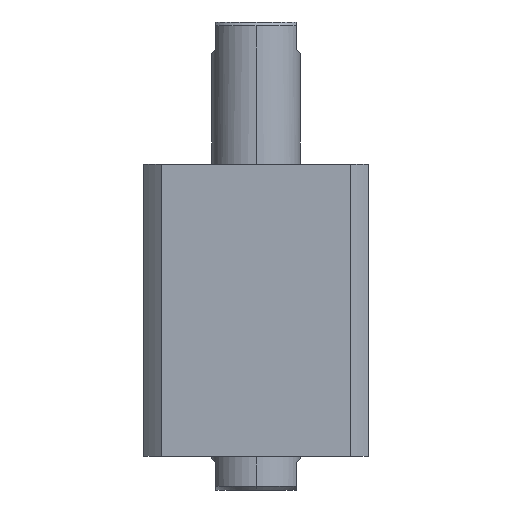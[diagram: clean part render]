
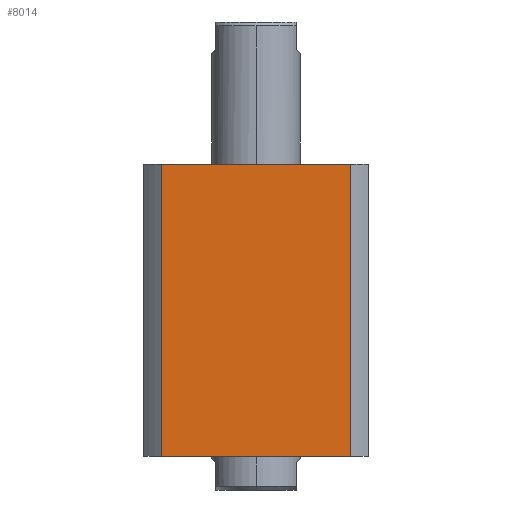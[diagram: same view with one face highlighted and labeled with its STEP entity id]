
A CAD part, front view. The second image highlights one B-rep face of the part: STEP entity #8014.
In plain terms, the highlighted planar face has unit normal (0, -1, 0) as drawn and (1, 0, 0) by its records, which use the part's own axes.
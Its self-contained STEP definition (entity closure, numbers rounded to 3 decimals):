
#1365 = FACE_OUTER_BOUND ( 'NONE', #6724, .T. ) ;
#1658 = CARTESIAN_POINT ( 'NONE',  ( 57., 57., 148. ) ) ;
#3693 = DIRECTION ( 'NONE',  ( 0., 0., -1. ) ) ;
#3714 = DIRECTION ( 'NONE',  ( 0., 0., 1. ) ) ;
#4018 = LINE ( 'NONE', #7158, #9638 ) ;
#4066 = ORIENTED_EDGE ( 'NONE', *, *, #12816, .F. ) ;
#4146 = DIRECTION ( 'NONE',  ( -1., 0., 0. ) ) ;
#4301 = VECTOR ( 'NONE', #11758, 1000. ) ;
#5656 = CARTESIAN_POINT ( 'NONE',  ( 57., -47.971, 148. ) ) ;
#5721 = EDGE_CURVE ( 'NONE', #11244, #14100, #4018, .T. ) ;
#6724 = EDGE_LOOP ( 'NONE', ( #4066, #7710, #11881, #15087 ) ) ;
#7078 = VERTEX_POINT ( 'NONE', #5656 ) ;
#7158 = CARTESIAN_POINT ( 'NONE',  ( 57., 57., 0. ) ) ;
#7710 = ORIENTED_EDGE ( 'NONE', *, *, #5721, .T. ) ;
#8014 = ADVANCED_FACE ( 'NONE', ( #1365 ), #14991, .F. ) ;
#8355 = DIRECTION ( 'NONE',  ( 0., 1., 0. ) ) ;
#8589 = VERTEX_POINT ( 'NONE', #13976 ) ;
#8595 = VECTOR ( 'NONE', #3693, 1000. ) ;
#9638 = VECTOR ( 'NONE', #8355, 1000. ) ;
#9836 = VECTOR ( 'NONE', #3714, 1000. ) ;
#10228 = LINE ( 'NONE', #10982, #9836 ) ;
#10522 = CARTESIAN_POINT ( 'NONE',  ( 57., 57., 148. ) ) ;
#10553 = EDGE_CURVE ( 'NONE', #7078, #8589, #13953, .T. ) ;
#10792 = AXIS2_PLACEMENT_3D ( 'NONE', #1658, #4146, #12592 ) ;
#10982 = CARTESIAN_POINT ( 'NONE',  ( 57., -47.971, -152. ) ) ;
#11244 = VERTEX_POINT ( 'NONE', #14431 ) ;
#11595 = EDGE_CURVE ( 'NONE', #8589, #14100, #15435, .T. ) ;
#11758 = DIRECTION ( 'NONE',  ( 0., 1., 0. ) ) ;
#11881 = ORIENTED_EDGE ( 'NONE', *, *, #11595, .F. ) ;
#12148 = CARTESIAN_POINT ( 'NONE',  ( 57., 47.971, -152. ) ) ;
#12592 = DIRECTION ( 'NONE',  ( 0., -1., 0. ) ) ;
#12816 = EDGE_CURVE ( 'NONE', #11244, #7078, #10228, .T. ) ;
#13953 = LINE ( 'NONE', #10522, #4301 ) ;
#13976 = CARTESIAN_POINT ( 'NONE',  ( 57., 47.971, 148. ) ) ;
#14100 = VERTEX_POINT ( 'NONE', #15695 ) ;
#14431 = CARTESIAN_POINT ( 'NONE',  ( 57., -47.971, 0. ) ) ;
#14991 = PLANE ( 'NONE',  #10792 ) ;
#15087 = ORIENTED_EDGE ( 'NONE', *, *, #10553, .F. ) ;
#15435 = LINE ( 'NONE', #12148, #8595 ) ;
#15695 = CARTESIAN_POINT ( 'NONE',  ( 57., 47.971, 0. ) ) ;
